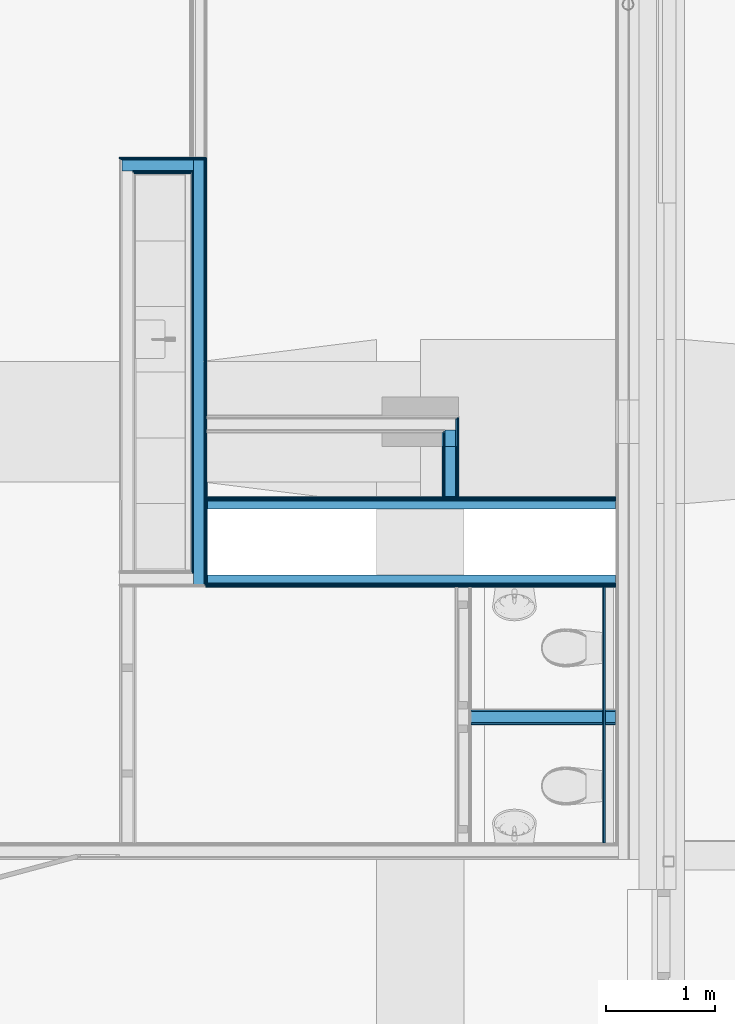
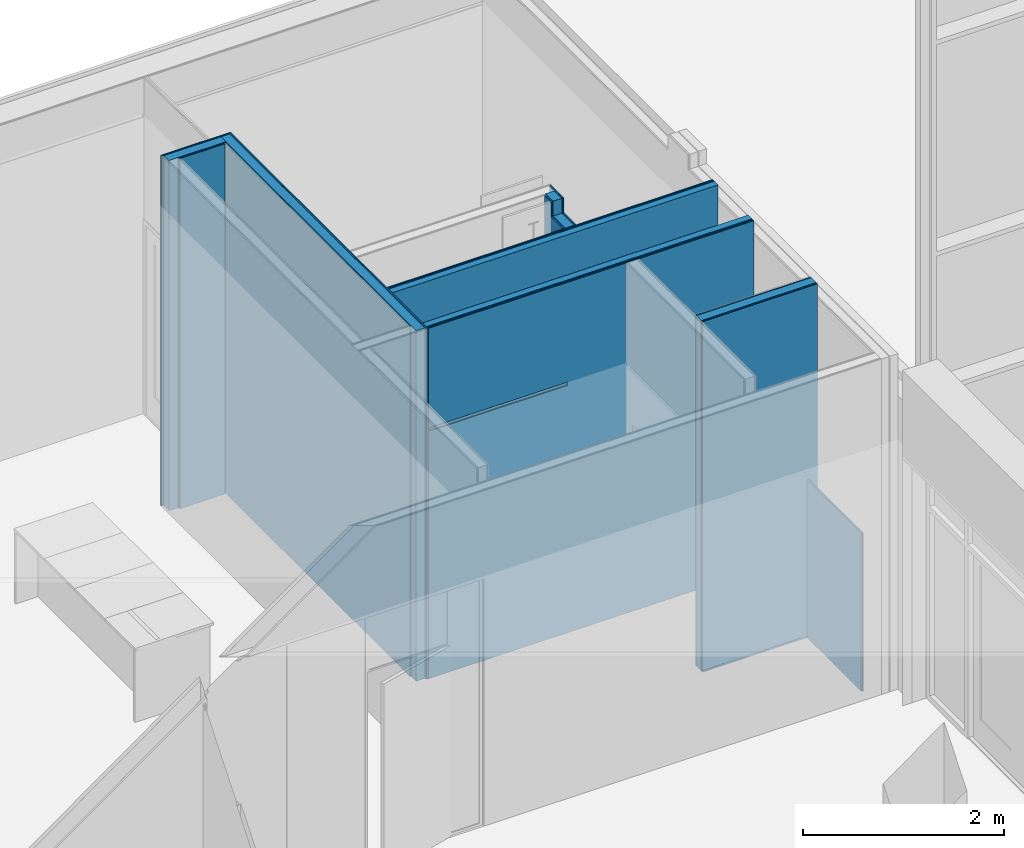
# One storey, part 47 of 94: 28 building element parts, 7 elements without a shape of their own.
"""IFC2X3 building model written with IfcOpenShell, lengths in millimetres."""

from ifc_helpers import new_model, entity, si_unit, converted_unit, derived_unit, money_unit, direction, frame, origin_with_axes, place, context, subcontext, project, spatial, faceted_brep, material, type_object, element, aggregate, save


model = new_model("IFC2X3")

# Units and contexts
model_context = context("Model", 3, precision=0.01, world=origin_with_axes(), true_north=direction((0.0, 1.0)))
body_context = subcontext(model_context, "Body", "Model", "MODEL_VIEW")
ifc_project = project(units=[si_unit("LENGTHUNIT", "METRE", prefix="MILLI"), si_unit("AREAUNIT", "SQUARE_METRE"), si_unit("VOLUMEUNIT", "CUBIC_METRE"), converted_unit("PLANEANGLEUNIT", "DEGREE", entity("IfcPlaneAngleMeasure", 0.0174532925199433), si_unit("PLANEANGLEUNIT", "RADIAN"), dimensions=[0, 0, 0, 0, 0, 0, 0]), money_unit("EUR"), converted_unit("TIMEUNIT", "Year", entity("IfcTimeMeasure", 31557600.0), si_unit("TIMEUNIT", "SECOND"), dimensions=[0, 0, 1, 0, 0, 0, 0]), si_unit("MASSUNIT", "GRAM", prefix="KILO"), si_unit("THERMODYNAMICTEMPERATUREUNIT", "DEGREE_CELSIUS"), si_unit("LUMINOUSINTENSITYUNIT", "LUMEN"), si_unit("ENERGYUNIT", "JOULE", prefix="MEGA"), derived_unit("THERMALCONDUCTANCEUNIT", [(si_unit("POWERUNIT", "WATT"), 1), (si_unit("LENGTHUNIT", "METRE"), -1), (si_unit("THERMODYNAMICTEMPERATUREUNIT", "KELVIN"), -1)]), derived_unit("SPECIFICHEATCAPACITYUNIT", [(si_unit("ENERGYUNIT", "JOULE"), 1), (si_unit("MASSUNIT", "GRAM", prefix="KILO"), -1), (si_unit("THERMODYNAMICTEMPERATUREUNIT", "KELVIN"), -1)]), derived_unit("MASSDENSITYUNIT", [(si_unit("MASSUNIT", "GRAM", prefix="KILO"), 1), (si_unit("VOLUMEUNIT", "CUBIC_METRE"), -1)])], contexts=[model_context])

# Site, building, storey
site_placement = place(None, origin_with_axes())
site = spatial("IfcSite", under=ifc_project, at=site_placement, Name="<site naam>", CompositionType="ELEMENT")
building_placement = place(site_placement, origin_with_axes())
building = spatial("IfcBuilding", under=site, at=building_placement, Name="<Naam gebouw>", CompositionType="ELEMENT")
storey_placement = place(building_placement, frame((0.0, 0.0, 4250.0), z_axis=(0.0, 0.0, 1.0), x_axis=(1.0, 0.0, 0.0)))
storey = spatial("IfcBuildingStorey", under=building, at=storey_placement, Name="01 1e verdieping", CompositionType="ELEMENT", Elevation=4250.0)

# Wall, building element parts
wall_type_1 = type_object("IfcWallType", Name="MS-04 GF 138 V/100.3.A 113", PredefinedType="NOTDEFINED")
wall_1_placement = place(storey_placement, frame((0.0, 15199.99999483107, 0.0), z_axis=(0.0, 0.0, 1.0), x_axis=(1.0, 0.0, 0.0)))
wall_1 = element("IfcWall", 1, at=wall_1_placement, inside=storey, type_object=wall_type_1, Name="22_Binnenwand_MS-04")
ifc_material_1 = material(Name="gipsplaat")
building_element_part_1_placement = place(wall_1_placement, origin_with_axes())
building_element_part_1 = element("IfcBuildingElementPart", 2, at=building_element_part_1_placement, material=ifc_material_1, Name="gipsplaat", context=body_context, shape_type="Brep", body=[
    faceted_brep([(3785.044468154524, 112.5000000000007, 4250.0), (49.88295929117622, 112.5000000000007, 4250.0), (49.88473264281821, 99.99999999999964, 4250.0), (3785.044468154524, 99.99999999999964, 4250.0), (3785.044468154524, 112.5000000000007, 0.0), (49.88295929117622, 112.5000000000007, 0.0), (49.88473264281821, 99.99999999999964, 0.0), (3785.044468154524, 99.99999999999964, 0.0)], [[[0, 1, 2, 3]], [[4, 5, 1, 0]], [[2, 1, 5, 6]], [[3, 2, 6, 7]], [[3, 7, 4, 0]], [[7, 6, 5, 4]]]),
])
building_element_part_2_placement = place(wall_1_placement, origin_with_axes())
building_element_part_2 = element("IfcBuildingElementPart", 3, at=building_element_part_2_placement, material=ifc_material_1, Name="gipsplaat", context=body_context, shape_type="Brep", body=[
    faceted_brep([(3785.044468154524, 99.99999999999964, 4250.0), (49.88473264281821, 99.99999999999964, 4250.0), (49.88650599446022, 87.50000000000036, 4250.0), (3785.044468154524, 87.50000000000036, 4250.0), (3785.044468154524, 99.99999999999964, 0.0), (49.88473264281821, 99.99999999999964, 0.0), (49.88650599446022, 87.50000000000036, 0.0), (3785.044468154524, 87.50000000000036, 0.0)], [[[0, 1, 2, 3]], [[4, 5, 1, 0]], [[2, 1, 5, 6]], [[3, 2, 6, 7]], [[3, 7, 4, 0]], [[7, 6, 5, 4]]]),
])
building_element_part_3_placement = place(wall_1_placement, origin_with_axes())
building_element_part_3 = element("IfcBuildingElementPart", 4, at=building_element_part_3_placement, material=ifc_material_1, Name="gipsplaat", context=body_context, shape_type="Brep", body=[
    faceted_brep([(3785.044468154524, 87.50000000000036, 4250.0), (49.88650599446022, 87.50000000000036, 4250.0), (49.88827934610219, 75.00000000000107, 4250.0), (3785.044468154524, 75.00000000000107, 4250.0), (3785.044468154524, 87.50000000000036, 0.0), (49.88650599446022, 87.50000000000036, 0.0), (49.88827934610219, 74.99999999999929, 0.0), (3785.044468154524, 75.00000000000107, 0.0)], [[[0, 1, 2, 3]], [[4, 5, 1, 0]], [[2, 1, 5, 6]], [[3, 2, 6, 7]], [[3, 7, 4, 0]], [[7, 6, 5, 4]]]),
])
ifc_material_2 = material(Name="isolatie_steenwol LSW")
building_element_part_4_placement = place(wall_1_placement, origin_with_axes())
building_element_part_4 = element("IfcBuildingElementPart", 5, at=building_element_part_4_placement, material=ifc_material_2, Name="isolatie_steenwol LSW", context=body_context, shape_type="Brep", body=[
    faceted_brep([(3785.044468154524, 75.00000000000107, 4250.0), (49.88827934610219, 75.00000000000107, 4250.0), (49.89891945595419, 0.0, 4250.0), (3785.044468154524, 0.0, 4250.0), (3785.044468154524, 75.00000000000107, 0.0), (49.88827934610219, 74.99999999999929, 0.0), (49.89891945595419, 0.0, 0.0), (3785.044468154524, 0.0, 0.0)], [[[0, 1, 2, 3]], [[4, 5, 1, 0]], [[2, 1, 5, 6]], [[3, 2, 6, 7]], [[3, 7, 4, 0]], [[7, 6, 5, 4]]]),
])
aggregate(wall_1, [building_element_part_1, building_element_part_2, building_element_part_3, building_element_part_4])

wall_2_placement = place(storey_placement, frame((-76.73513183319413, 14599.99996934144, 0.0), z_axis=(0.0, 0.0, 1.0), x_axis=(1.0, 0.0, 0.0)))
wall_2 = element("IfcWall", 6, at=wall_2_placement, inside=storey, type_object=wall_type_1, Name="22_Binnenwand_MS-04")
building_element_part_5_placement = place(wall_2_placement, origin_with_axes())
building_element_part_5 = element("IfcBuildingElementPart", 7, at=building_element_part_5_placement, material=ifc_material_2, Name="isolatie_steenwol LSW", context=body_context, shape_type="Brep", body=[
    faceted_brep([(3861.779599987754, -74.99999999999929, 0.0), (126.7298122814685, -74.99999999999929, 0.0), (126.7191721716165, 0.0, 0.0), (3861.779599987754, 0.0, 0.0), (3861.779599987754, -74.99999999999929, 4250.0), (126.7298122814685, -74.99999999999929, 4250.0), (126.7191721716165, 0.0, 4250.0), (3861.779599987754, 0.0, 4250.0)], [[[0, 1, 2, 3]], [[4, 5, 1, 0]], [[2, 1, 5, 6]], [[3, 2, 6, 7]], [[3, 7, 4, 0]], [[7, 6, 5, 4]]]),
])
building_element_part_6_placement = place(wall_2_placement, origin_with_axes())
building_element_part_6 = element("IfcBuildingElementPart", 8, at=building_element_part_6_placement, material=ifc_material_1, Name="gipsplaat", context=body_context, shape_type="Brep", body=[
    faceted_brep([(3861.779599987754, -87.50000000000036, 0.0), (126.7315856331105, -87.50000000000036, 0.0), (126.7298122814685, -74.99999999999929, 0.0), (3861.779599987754, -74.99999999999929, 0.0), (3861.779599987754, -87.50000000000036, 4250.0), (126.7315856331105, -87.50000000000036, 4250.0), (126.7298122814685, -74.99999999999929, 4250.0), (3861.779599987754, -74.99999999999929, 4250.0)], [[[0, 1, 2, 3]], [[4, 5, 1, 0]], [[2, 1, 5, 6]], [[3, 2, 6, 7]], [[3, 7, 4, 0]], [[7, 6, 5, 4]]]),
])
building_element_part_7_placement = place(wall_2_placement, origin_with_axes())
building_element_part_7 = element("IfcBuildingElementPart", 9, at=building_element_part_7_placement, material=ifc_material_1, Name="gipsplaat", context=body_context, shape_type="Brep", body=[
    faceted_brep([(126.7333589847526, -100.0000254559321, 3000.0), (1724.979590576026, -100.0000254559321, 3000.0), (1724.979590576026, -100.0000254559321, 3040.0), (126.7333589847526, -100.0000254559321, 3040.0), (126.7333589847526, -99.99999999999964, 4250.0), (3861.779599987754, -99.99999999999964, 4250.0), (3861.779599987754, -99.99999999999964, 0.0), (126.7333589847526, -99.99999999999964, 0.0), (126.7351323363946, -112.4999999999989, 3000.0), (1724.979590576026, -112.4999999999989, 3000.0), (1724.979590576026, -112.4999999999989, 3040.0), (126.7351323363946, -112.4999999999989, 3040.0), (126.7351323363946, -112.4999999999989, 4250.0), (3861.779599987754, -112.4999999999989, 4250.0), (3861.779599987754, -112.4999999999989, 0.0), (126.7351323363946, -112.5000000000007, 0.0)], [[[0, 1, 2, 3, 4, 5, 6, 7]], [[1, 0, 8, 9]], [[2, 1, 9, 10]], [[3, 2, 10, 11]], [[3, 11, 12, 4]], [[13, 5, 4, 12]], [[14, 6, 5, 13]], [[6, 14, 15, 7]], [[8, 0, 7, 15]], [[9, 8, 15, 14, 13, 12, 11, 10]]]),
])
building_element_part_8_placement = place(wall_2_placement, origin_with_axes())
building_element_part_8 = element("IfcBuildingElementPart", 10, at=building_element_part_8_placement, material=ifc_material_1, Name="gipsplaat", context=body_context, shape_type="Brep", body=[
    faceted_brep([(3861.779599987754, -99.99999999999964, 0.0), (126.7333589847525, -99.99999999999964, 0.0), (126.7315856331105, -87.50000000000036, 0.0), (3861.779599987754, -87.50000000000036, 0.0), (3861.779599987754, -99.99999999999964, 4250.0), (126.7333589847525, -99.99999999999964, 4250.0), (126.7315856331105, -87.50000000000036, 4250.0), (3861.779599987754, -87.50000000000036, 4250.0)], [[[0, 1, 2, 3]], [[4, 5, 1, 0]], [[2, 1, 5, 6]], [[3, 2, 6, 7]], [[3, 7, 4, 0]], [[7, 6, 5, 4]]]),
])
aggregate(wall_2, [building_element_part_5, building_element_part_6, building_element_part_7, building_element_part_8])

wall_type_2 = type_object("IfcWallType", Name="MS-01 GF 150 ECO DGS/2.100.2.A 150", PredefinedType="NOTDEFINED")
wall_3_placement = place(storey_placement, frame((2350.000000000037, 16050.0, 0.0), z_axis=(0.0, 0.0, 1.0), x_axis=(0.0, -1.0, 0.0)))
wall_3 = element("IfcWall", 11, at=wall_3_placement, inside=storey, type_object=wall_type_2, Name="22_Binnenwand_MS-01")
building_element_part_9_placement = place(wall_3_placement, origin_with_axes())
building_element_part_9 = element("IfcBuildingElementPart", 12, at=building_element_part_9_placement, material=ifc_material_1, Name="gipsplaat", context=body_context, shape_type="Brep", body=[
    faceted_brep([(274.9999999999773, -12.49999999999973, 4250.0), (274.9999999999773, 0.0, 4250.0), (12.49999999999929, 0.0, 4250.0), (12.49999999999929, -12.49999999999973, 4250.0), (274.9999999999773, 0.0, 4070.000000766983), (274.9999999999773, -12.49999999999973, 4070.000000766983), (737.5000051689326, 0.0, 4070.000000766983), (737.5000051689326, 0.0, 0.0), (12.49999999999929, 0.0, 0.0), (12.49999999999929, -12.49999999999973, 0.0), (737.5000051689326, -12.49999999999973, 0.0), (737.5000051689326, -12.49999999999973, 4070.000000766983)], [[[0, 1, 2, 3]], [[4, 1, 0, 5]], [[4, 6, 7, 8, 2, 1]], [[9, 3, 2, 8]], [[5, 0, 3, 9, 10, 11]], [[6, 4, 5, 11]], [[6, 11, 10, 7]], [[7, 10, 9, 8]]]),
])
building_element_part_10_placement = place(wall_3_placement, origin_with_axes())
building_element_part_10 = element("IfcBuildingElementPart", 13, at=building_element_part_10_placement, material=ifc_material_2, Name="isolatie_steenwol LSW", context=body_context, shape_type="Brep", body=[
    faceted_brep([(274.9999999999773, -124.9999999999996, 4250.0), (274.9999999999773, -24.99999999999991, 4250.0), (125.0, -24.99999999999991, 4250.0), (125.0, -124.9999999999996, 4250.0), (274.9999999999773, -24.99999999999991, 4070.000000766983), (274.9999999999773, -125.0000000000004, 4070.000000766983), (737.5000051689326, -24.99999999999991, 4070.000000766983), (737.5000051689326, -24.99999999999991, 0.0), (125.0, -24.99999999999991, 0.0), (125.0, -125.0000000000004, 0.0), (737.5000051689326, -125.0000000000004, 0.0), (737.5000051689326, -125.0000000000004, 4070.000000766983)], [[[0, 1, 2, 3]], [[4, 1, 0, 5]], [[4, 6, 7, 8, 2, 1]], [[9, 3, 2, 8]], [[5, 0, 3, 9, 10, 11]], [[6, 4, 5, 11]], [[6, 11, 10, 7]], [[7, 10, 9, 8]]]),
])
building_element_part_11_placement = place(wall_3_placement, origin_with_axes())
building_element_part_11 = element("IfcBuildingElementPart", 14, at=building_element_part_11_placement, material=ifc_material_1, Name="gipsplaat", context=body_context, shape_type="Brep", body=[
    faceted_brep([(274.9999999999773, -137.4999999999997, 4250.0), (274.9999999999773, -124.9999999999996, 4250.0), (137.4999999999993, -124.9999999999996, 4250.0), (137.4999999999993, -137.4999999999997, 4250.0), (274.9999999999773, -125.0000000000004, 4070.000000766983), (274.9999999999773, -137.4999999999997, 4070.000000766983), (737.5000051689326, -125.0000000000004, 4070.000000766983), (737.5000051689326, -125.0000000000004, 0.0), (137.4999999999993, -125.0000000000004, 0.0), (137.4999999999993, -137.4999999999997, 0.0), (737.5000051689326, -137.4999999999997, 0.0), (737.5000051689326, -137.4999999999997, 4070.000000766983)], [[[0, 1, 2, 3]], [[4, 1, 0, 5]], [[4, 6, 7, 8, 2, 1]], [[9, 3, 2, 8]], [[5, 0, 3, 9, 10, 11]], [[6, 4, 5, 11]], [[6, 11, 10, 7]], [[7, 10, 9, 8]]]),
])
building_element_part_12_placement = place(wall_3_placement, origin_with_axes())
building_element_part_12 = element("IfcBuildingElementPart", 15, at=building_element_part_12_placement, material=ifc_material_1, Name="gipsplaat", context=body_context, shape_type="Brep", body=[
    faceted_brep([(274.9999999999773, -149.9999999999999, 4250.0), (274.9999999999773, -137.4999999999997, 4250.0), (150.0000000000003, -137.4999999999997, 4250.0), (150.0000000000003, -149.9999999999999, 4250.0), (274.9999999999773, -137.4999999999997, 4070.000000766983), (274.9999999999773, -149.9999999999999, 4070.000000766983), (737.5000051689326, -137.4999999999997, 4070.000000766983), (737.5000051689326, -137.4999999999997, 0.0), (150.0000000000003, -137.4999999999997, 0.0), (150.0000000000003, -149.9999999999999, 0.0), (737.5000051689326, -150.0000000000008, 0.0), (737.5000051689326, -149.9999999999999, 4070.000000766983)], [[[0, 1, 2, 3]], [[4, 1, 0, 5]], [[4, 6, 7, 8, 2, 1]], [[9, 3, 2, 8]], [[5, 0, 3, 9, 10, 11]], [[6, 4, 5, 11]], [[6, 11, 10, 7]], [[7, 10, 9, 8]]]),
])
building_element_part_13_placement = place(wall_3_placement, origin_with_axes())
building_element_part_13 = element("IfcBuildingElementPart", 16, at=building_element_part_13_placement, material=ifc_material_1, Name="gipsplaat", context=body_context, shape_type="Brep", body=[
    faceted_brep([(274.9999999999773, -24.99999999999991, 4250.0), (274.9999999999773, -12.49999999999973, 4250.0), (24.99999999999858, -12.49999999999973, 4250.0), (24.99999999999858, -24.99999999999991, 4250.0), (274.9999999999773, -12.49999999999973, 4070.000000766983), (274.9999999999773, -24.99999999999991, 4070.000000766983), (737.5000051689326, -12.49999999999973, 4070.000000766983), (737.5000051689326, -12.49999999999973, 0.0), (24.99999999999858, -12.49999999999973, 0.0), (24.99999999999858, -24.99999999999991, 0.0), (737.5000051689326, -24.99999999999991, 0.0), (737.5000051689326, -24.99999999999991, 4070.000000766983)], [[[0, 1, 2, 3]], [[4, 1, 0, 5]], [[4, 6, 7, 8, 2, 1]], [[9, 3, 2, 8]], [[5, 0, 3, 9, 10, 11]], [[6, 4, 5, 11]], [[6, 11, 10, 7]], [[7, 10, 9, 8]]]),
])
aggregate(wall_3, [building_element_part_9, building_element_part_10, building_element_part_11, building_element_part_12, building_element_part_13])

wall_4_placement = place(storey_placement, frame((49.46373943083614, 18267.49669746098, 0.0), z_axis=(0.0, 0.0, 1.0), x_axis=(0.0001418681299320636, -0.9999999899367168, 0.0)))
wall_4 = element("IfcWall", 17, at=wall_4_placement, inside=storey, type_object=wall_type_2, Name="22_Binnenwand_MS-01")
building_element_part_14_placement = place(wall_4_placement, origin_with_axes())
building_element_part_14 = element("IfcBuildingElementPart", 18, at=building_element_part_14_placement, material=ifc_material_1, Name="gipsplaat", context=body_context, shape_type="Brep", body=[
    faceted_brep([(-150.0016637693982, -12.49999999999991, 0.0), (3779.99499280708, -12.50000000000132, 0.0), (3779.99499280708, -12.50000000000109, 4250.0), (-150.0016637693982, -12.49999999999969, 4250.0), (-150.0002211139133, -1.65259318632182, 0.0), (-149.9980537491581, 0.0, 0.0), (447.7879961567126, -5.736015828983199e-09, 0.0), (2217.496620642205, -0.2510652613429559, 0.0), (2217.496656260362, 0.0, 0.0), (3779.996766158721, 0.0, 0.0), (3779.996766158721, 0.0, 4250.0), (-150.0000013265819, 0.0, 4250.0), (-149.9980537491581, 0.0, 3.000000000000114), (-150.0002211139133, -1.652593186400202, 3.000000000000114), (2217.496656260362, 0.0, 3.000000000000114), (447.787955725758, 0.0, 3.000000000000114), (2217.496620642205, -0.2510652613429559, 3.000000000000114)], [[[0, 1, 2, 3]], [[1, 0, 4, 5, 6, 7, 8, 9]], [[2, 1, 9, 10]], [[3, 2, 10, 11]], [[12, 13, 4, 0, 3, 11]], [[5, 4, 13, 12]], [[6, 5, 12, 11, 10, 9, 8, 14, 15]], [[16, 7, 6, 15]], [[7, 16, 14, 8]], [[16, 15, 14]]]),
])
building_element_part_15_placement = place(wall_4_placement, origin_with_axes())
building_element_part_15 = element("IfcBuildingElementPart", 19, at=building_element_part_15_placement, material=ifc_material_1, Name="gipsplaat", context=body_context, shape_type="Brep", body=[
    faceted_brep([(3767.494992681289, -12.50000000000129, 0.0), (3767.493219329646, -25.00000000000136, 0.0), (-137.5033261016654, -24.99999999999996, 0.0), (-137.5016636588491, -12.49999999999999, 0.0), (3767.494992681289, -12.50000000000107, 4250.0), (3767.493219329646, -25.00000000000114, 4250.0), (-137.5033261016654, -24.99999999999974, 4250.0), (-137.5016636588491, -12.49999999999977, 4250.0)], [[[0, 1, 2, 3]], [[1, 0, 4, 5]], [[1, 5, 6, 2]], [[7, 3, 2, 6]], [[4, 0, 3, 7]], [[5, 4, 7, 6]]]),
])
building_element_part_16_placement = place(wall_4_placement, origin_with_axes())
building_element_part_16 = element("IfcBuildingElementPart", 20, at=building_element_part_16_placement, material=ifc_material_2, Name="isolatie_steenwol LSW", context=body_context, shape_type="Brep", body=[
    faceted_brep([(3754.993219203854, -25.00000000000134, 0.0), (3754.979032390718, -125.0000000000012, 0.0), (-125.0166255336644, -125.0000000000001, 0.0), (-125.0033259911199, -25.00000000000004, 0.0), (3754.993219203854, -25.00000000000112, 4250.0), (3754.979032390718, -125.000000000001, 4250.0), (-125.0166255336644, -124.9999999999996, 4250.0), (-125.0033259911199, -24.99999999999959, 4250.0)], [[[0, 1, 2, 3]], [[1, 0, 4, 5]], [[1, 5, 6, 2]], [[7, 3, 2, 6]], [[4, 0, 3, 7]], [[5, 4, 7, 6]]]),
])
building_element_part_17_placement = place(wall_4_placement, origin_with_axes())
building_element_part_17 = element("IfcBuildingElementPart", 21, at=building_element_part_17_placement, material=ifc_material_1, Name="gipsplaat", context=body_context, shape_type="Brep", body=[
    faceted_brep([(3654.979031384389, -125.0000000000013, 0.0), (3654.977258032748, -137.5000000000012, 0.0), (-25.01828709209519, -137.5, 0.0), (-25.0166246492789, -125.0, 0.0), (3654.979031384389, -125.000000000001, 4250.0), (3654.977258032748, -137.500000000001, 4250.0), (-25.01828709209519, -137.4999999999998, 4250.0), (-25.0166246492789, -124.9999999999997, 4250.0)], [[[0, 1, 2, 3]], [[1, 0, 4, 5]], [[1, 5, 6, 2]], [[7, 3, 2, 6]], [[4, 0, 3, 7]], [[5, 4, 7, 6]]]),
])
aggregate(wall_4, [building_element_part_14, building_element_part_15, building_element_part_16, building_element_part_17])

wall_5_placement = place(storey_placement, frame((-751.8920079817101, 18267.48958726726, 0.0), z_axis=(0.0, 0.0, 1.0), x_axis=(0.9999999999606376, 8.872705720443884e-06, 0.0)))
wall_5 = element("IfcWall", 22, at=wall_5_placement, inside=storey, type_object=wall_type_2, Name="22_Binnenwand_MS-01")
building_element_part_18_placement = place(wall_5_placement, origin_with_axes())
building_element_part_18 = element("IfcBuildingElementPart", 23, at=building_element_part_18_placement, material=ifc_material_1, Name="gipsplaat", context=body_context, shape_type="Brep", body=[
    faceted_brep([(641.335766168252, 137.4943096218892, 3.000000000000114), (641.3358770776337, 149.9943727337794, 3.000000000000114), (651.4649503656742, 149.994282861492, 3.000000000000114), (651.4558500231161, 137.4942198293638, 3.000000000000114), (-0.04501414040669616, 150.0000004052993, 3.000000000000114), (-0.04126296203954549, 137.5000003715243, 3.000000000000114), (-0.04501414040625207, 150.0000004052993, 3600.0), (0.2786941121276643, 149.9999971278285, 3600.0), (0.2786941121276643, 149.9999971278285, 3640.0), (-0.04501414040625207, 150.0000004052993, 3640.0), (-0.04501414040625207, 150.0000004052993, 4250.0), (788.8357989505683, 149.9930008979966, 4250.0), (788.8357989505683, 149.9930008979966, 0.0), (651.4649503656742, 149.994282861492, 0.0), (651.4558500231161, 137.4942198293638, 0.0), (788.8374613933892, 137.4930008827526, 0.0), (788.8374613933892, 137.4930008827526, 4250.0), (-0.0412629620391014, 137.5000003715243, 4250.0), (-0.0412629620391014, 137.5000003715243, 3640.0), (0.2785832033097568, 137.4999975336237, 3640.0), (0.2785832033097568, 137.4999975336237, 3600.0), (-0.0412629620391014, 137.5000003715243, 3600.0)], [[[0, 1, 2, 3]], [[4, 1, 0, 5]], [[1, 4, 6, 7, 8, 9, 10, 11, 12, 13, 2]], [[2, 13, 14, 3]], [[5, 0, 3, 14, 15, 16, 17, 18, 19, 20, 21]], [[4, 5, 21, 6]], [[7, 6, 21, 20]], [[8, 7, 20, 19]], [[9, 8, 19, 18]], [[9, 18, 17, 10]], [[11, 10, 17, 16]], [[12, 11, 16, 15]], [[14, 13, 12, 15]]]),
])
building_element_part_19_placement = place(wall_5_placement, origin_with_axes())
building_element_part_19 = element("IfcBuildingElementPart", 24, at=building_element_part_19_placement, material=ifc_material_1, Name="gipsplaat", context=body_context, shape_type="Brep", body=[
    faceted_brep([(651.4467497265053, 124.9942199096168, 3.000000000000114), (12.46248881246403, 124.9998894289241, 3.000000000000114), (12.4587376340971, 137.4998894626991, 3.000000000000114), (651.4558500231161, 137.4942198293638, 3.000000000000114), (651.4467497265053, 124.9942199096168, 0.0), (776.3391237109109, 124.9931117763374, 0.0), (776.3391237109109, 124.9931117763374, 4250.0), (12.46248881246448, 124.9998894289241, 4250.0), (12.45873763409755, 137.4998894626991, 4250.0), (776.3374612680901, 137.4931117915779, 4250.0), (776.3374612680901, 137.4931117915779, 0.0), (651.4558500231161, 137.4942198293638, 0.0)], [[[0, 1, 2, 3]], [[1, 0, 4, 5, 6, 7]], [[2, 1, 7, 8]], [[2, 8, 9, 10, 11, 3]], [[3, 11, 4, 0]], [[4, 11, 10, 5]], [[5, 10, 9, 6]], [[9, 8, 7, 6]]]),
])
building_element_part_20_placement = place(wall_5_placement, origin_with_axes())
building_element_part_20 = element("IfcBuildingElementPart", 25, at=building_element_part_20_placement, material=ifc_material_1, Name="gipsplaat", context=body_context, shape_type="Brep", body=[
    faceted_brep([(651.3648470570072, 12.49422063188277, 3.000000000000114), (124.9962547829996, 12.49889094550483, 3.000000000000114), (124.9925036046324, 24.99889097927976, 3.000000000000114), (651.373947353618, 24.99422055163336, 3.000000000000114), (651.3648470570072, 12.49422063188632, 0.0), (663.8540845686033, 12.49410981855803, 0.0), (663.8540845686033, 12.49410981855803, 4250.0), (124.9962547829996, 12.49889094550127, 4250.0), (124.9925036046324, 24.99889097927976, 4250.0), (663.8524221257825, 24.99410983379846, 4250.0), (663.8524221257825, 24.99410983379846, 0.0), (651.373947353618, 24.99422055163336, 0.0)], [[[0, 1, 2, 3]], [[1, 0, 4, 5, 6, 7]], [[2, 1, 7, 8]], [[2, 8, 9, 10, 11, 3]], [[3, 11, 4, 0]], [[4, 11, 10, 5]], [[5, 10, 9, 6]], [[9, 8, 7, 6]]]),
])
building_element_part_21_placement = place(wall_5_placement, origin_with_axes())
building_element_part_21 = element("IfcBuildingElementPart", 26, at=building_element_part_21_placement, material=ifc_material_2, Name="isolatie_steenwol LSW", context=body_context, shape_type="Brep", body=[
    faceted_brep([(651.373947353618, 24.99422055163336, 3.000000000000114), (24.99249883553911, 24.99977824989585, 3.000000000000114), (24.9624894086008, 124.9997785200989, 3.000000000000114), (651.4467497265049, 124.9942199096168, 3.000000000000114), (651.373947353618, 24.99422055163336, 0.0), (676.3524222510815, 24.99399892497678, 0.0), (676.3524222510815, 24.99399892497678, 4250.0), (24.99249883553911, 24.99977824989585, 4250.0), (24.96248940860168, 124.9997785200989, 4250.0), (676.3391227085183, 124.993999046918, 4250.0), (676.3391227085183, 124.993999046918, 0.0), (651.4467497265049, 124.9942199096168, 0.0)], [[[0, 1, 2, 3]], [[1, 0, 4, 5, 6, 7]], [[2, 1, 7, 8]], [[2, 8, 9, 10, 11, 3]], [[3, 11, 4, 0]], [[4, 11, 10, 5]], [[10, 9, 6, 5]], [[9, 8, 7, 6]]]),
])
building_element_part_22_placement = place(wall_5_placement, origin_with_axes())
building_element_part_22 = element("IfcBuildingElementPart", 27, at=building_element_part_22_placement, material=ifc_material_1, Name="gipsplaat", context=body_context, shape_type="Brep", body=[
    faceted_brep([(651.3557467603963, -0.00577928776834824, 3.000000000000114), (137.5000065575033, -0.00121999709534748, 3.000000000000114), (137.4962553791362, 12.49878003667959, 3.000000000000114), (651.3540844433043, 12.49422072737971, 3.000000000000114), (651.3557468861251, -0.005779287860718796, 4250.0), (137.5000065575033, -0.00121999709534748, 4250.0), (137.4962553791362, 12.49878003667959, 4250.0), (651.3540844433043, 12.49422072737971, 4250.0)], [[[0, 1, 2, 3]], [[1, 0, 4, 5]], [[2, 1, 5, 6]], [[2, 6, 7, 3]], [[0, 3, 7, 4]], [[7, 6, 5, 4]]]),
])
aggregate(wall_5, [building_element_part_18, building_element_part_19, building_element_part_20, building_element_part_21, building_element_part_22])

wall_6_placement = place(storey_placement, frame((2465.044484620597, 13374.99996934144, 0.0), z_axis=(0.0, 0.0, 1.0), x_axis=(1.0, 0.0, 0.0)))
wall_6 = element("IfcWall", 28, at=wall_6_placement, inside=storey, type_object=wall_type_2, Name="22_Binnenwand_MS-01")
building_element_part_23_placement = place(wall_6_placement, origin_with_axes())
building_element_part_23 = element("IfcBuildingElementPart", 29, at=building_element_part_23_placement, material=ifc_material_2, Name="isolatie_steenwol LSW", context=body_context, shape_type="Brep", body=[
    faceted_brep([(0.0, -25.00000000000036, 19.99999999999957), (1200.423215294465, -25.00000000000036, 19.99999999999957), (1200.423215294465, -25.00000000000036, 0.0), (0.0, -25.00000000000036, 0.0), (1200.423215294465, -125.0, 19.99999999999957), (0.0, -125.0, 19.99999999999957), (1200.423215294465, -125.0, 0.0), (0.0, -125.0, 0.0)], [[[0, 1, 2, 3]], [[4, 1, 0, 5]], [[1, 4, 6, 2]], [[3, 2, 6, 7]], [[5, 0, 3, 7]], [[4, 5, 7, 6]]]),
    faceted_brep([(1200.423215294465, -125.0, 22.99999999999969), (1200.423215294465, -25.00000000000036, 22.99999999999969), (1200.423215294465, -25.00000000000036, 1914.999999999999), (1200.423215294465, -125.0, 1914.999999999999), (0.0, -25.00000000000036, 22.99999999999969), (0.0, -125.0, 22.99999999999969), (0.0, -25.00000000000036, 4250.0), (1320.000000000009, -25.00000000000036, 4250.0), (1320.000000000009, -25.00000000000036, 0.0), (1225.423215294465, -25.00000000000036, 0.0), (1225.423215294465, -25.00000000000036, 1914.999999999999), (1225.423215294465, -125.0, 1914.999999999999), (1225.423215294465, -125.0, 0.0), (1320.000000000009, -125.0, 0.0), (1320.000000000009, -125.0, 4250.0), (0.0, -125.0, 4250.0)], [[[0, 1, 2, 3]], [[4, 1, 0, 5]], [[1, 4, 6, 7, 8, 9, 10, 2]], [[2, 10, 11, 3]], [[5, 0, 3, 11, 12, 13, 14, 15]], [[4, 5, 15, 6]], [[6, 15, 14, 7]], [[8, 7, 14, 13]], [[13, 12, 9, 8]], [[11, 10, 9, 12]]]),
])
building_element_part_24_placement = place(wall_6_placement, origin_with_axes())
building_element_part_24 = element("IfcBuildingElementPart", 30, at=building_element_part_24_placement, material=ifc_material_1, Name="gipsplaat", context=body_context, shape_type="Brep", body=[
    faceted_brep([(0.0, -12.49999999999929, 19.99999999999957), (1200.423215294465, -12.49999999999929, 19.99999999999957), (1200.423215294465, -12.49999999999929, 0.0), (0.0, -12.49999999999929, 0.0), (1200.423215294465, -25.00000000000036, 19.99999999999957), (0.0, -25.00000000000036, 19.99999999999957), (1200.423215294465, -25.00000000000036, 0.0), (0.0, -25.00000000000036, 0.0)], [[[0, 1, 2, 3]], [[4, 1, 0, 5]], [[1, 4, 6, 2]], [[3, 2, 6, 7]], [[5, 0, 3, 7]], [[4, 5, 7, 6]]]),
    faceted_brep([(1200.423215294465, -25.00000000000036, 22.99999999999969), (1200.423215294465, -12.49999999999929, 22.99999999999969), (1200.423215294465, -12.49999999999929, 1914.999999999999), (1200.423215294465, -25.00000000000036, 1914.999999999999), (0.0, -12.49999999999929, 22.99999999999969), (0.0, -25.00000000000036, 22.99999999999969), (0.0, -12.49999999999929, 4250.0), (1320.000000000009, -12.49999999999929, 4250.0), (1320.000000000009, -12.49999999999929, 0.0), (1225.423215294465, -12.49999999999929, 0.0), (1225.423215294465, -12.49999999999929, 1914.999999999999), (1225.423215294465, -25.00000000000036, 1914.999999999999), (1225.423215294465, -25.00000000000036, 0.0), (1320.000000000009, -25.00000000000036, 0.0), (1320.000000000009, -25.00000000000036, 4250.0), (0.0, -25.00000000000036, 4250.0)], [[[0, 1, 2, 3]], [[4, 1, 0, 5]], [[1, 4, 6, 7, 8, 9, 10, 2]], [[2, 10, 11, 3]], [[5, 0, 3, 11, 12, 13, 14, 15]], [[4, 5, 15, 6]], [[6, 15, 14, 7]], [[8, 7, 14, 13]], [[13, 12, 9, 8]], [[11, 10, 9, 12]]]),
])
building_element_part_25_placement = place(wall_6_placement, origin_with_axes())
building_element_part_25 = element("IfcBuildingElementPart", 31, at=building_element_part_25_placement, material=ifc_material_1, Name="gipsplaat", context=body_context, shape_type="Brep", body=[
    faceted_brep([(0.0, -137.4999999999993, 19.99999999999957), (1200.423215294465, -137.4999999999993, 19.99999999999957), (1200.423215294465, -137.4999999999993, 0.0), (0.0, -137.4999999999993, 0.0), (1200.423215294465, -150.0000000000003, 19.99999999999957), (0.0, -150.0000000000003, 19.99999999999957), (1200.423215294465, -150.0000000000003, 0.0), (0.0, -150.0000000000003, 0.0)], [[[0, 1, 2, 3]], [[4, 1, 0, 5]], [[1, 4, 6, 2]], [[3, 2, 6, 7]], [[5, 0, 3, 7]], [[4, 5, 7, 6]]]),
    faceted_brep([(1200.423215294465, -150.0000000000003, 22.99999999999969), (1200.423215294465, -137.4999999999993, 22.99999999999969), (1200.423215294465, -137.4999999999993, 1914.999999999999), (1200.423215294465, -150.0000000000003, 1914.999999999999), (0.0, -137.4999999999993, 22.99999999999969), (0.0, -150.0000000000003, 22.99999999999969), (0.0, -137.4999999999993, 4250.0), (1320.000000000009, -137.4999999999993, 4250.0), (1320.000000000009, -137.4999999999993, 0.0), (1225.423215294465, -137.4999999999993, 0.0), (1225.423215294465, -137.4999999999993, 1914.999999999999), (1225.423215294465, -150.0000000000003, 1914.999999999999), (1225.423215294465, -150.0000000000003, 0.0), (1320.000000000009, -150.0000000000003, 0.0), (1320.000000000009, -150.0000000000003, 4250.0), (0.0, -150.0000000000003, 4250.0)], [[[0, 1, 2, 3]], [[4, 1, 0, 5]], [[1, 4, 6, 7, 8, 9, 10, 2]], [[2, 10, 11, 3]], [[5, 0, 3, 11, 12, 13, 14, 15]], [[4, 5, 15, 6]], [[6, 15, 14, 7]], [[8, 7, 14, 13]], [[13, 12, 9, 8]], [[11, 10, 9, 12]]]),
])
building_element_part_26_placement = place(wall_6_placement, origin_with_axes())
building_element_part_26 = element("IfcBuildingElementPart", 32, at=building_element_part_26_placement, material=ifc_material_1, Name="gipsplaat", context=body_context, shape_type="Brep", body=[
    faceted_brep([(0.0, -125.0, 19.99999999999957), (1200.423215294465, -125.0, 19.99999999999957), (1200.423215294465, -125.0, 0.0), (0.0, -125.0, 0.0), (1200.423215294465, -137.4999999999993, 19.99999999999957), (0.0, -137.4999999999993, 19.99999999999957), (1200.423215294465, -137.4999999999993, 0.0), (0.0, -137.4999999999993, 0.0)], [[[0, 1, 2, 3]], [[4, 1, 0, 5]], [[1, 4, 6, 2]], [[3, 2, 6, 7]], [[5, 0, 3, 7]], [[4, 5, 7, 6]]]),
    faceted_brep([(1200.423215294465, -137.4999999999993, 22.99999999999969), (1200.423215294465, -125.0, 22.99999999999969), (1200.423215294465, -125.0, 1914.999999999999), (1200.423215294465, -137.4999999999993, 1914.999999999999), (0.0, -125.0, 22.99999999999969), (0.0, -137.4999999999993, 22.99999999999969), (0.0, -125.0, 4250.0), (1320.000000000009, -125.0, 4250.0), (1320.000000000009, -125.0, 0.0), (1225.423215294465, -125.0, 0.0), (1225.423215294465, -125.0, 1914.999999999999), (1225.423215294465, -137.4999999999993, 1914.999999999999), (1225.423215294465, -137.4999999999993, 0.0), (1320.000000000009, -137.4999999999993, 0.0), (1320.000000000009, -137.4999999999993, 4250.0), (0.0, -137.4999999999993, 4250.0)], [[[0, 1, 2, 3]], [[4, 1, 0, 5]], [[1, 4, 6, 7, 8, 9, 10, 2]], [[2, 10, 11, 3]], [[5, 0, 3, 11, 12, 13, 14, 15]], [[4, 5, 15, 6]], [[6, 15, 14, 7]], [[8, 7, 14, 13]], [[13, 12, 9, 8]], [[11, 10, 9, 12]]]),
])
aggregate(wall_6, [building_element_part_23, building_element_part_24, building_element_part_25, building_element_part_26])

wall_type_3 = type_object("IfcWallType", Name="MS-03 GF 100 HTT DGS V/100.2 100", PredefinedType="NOTDEFINED")
wall_7_placement = place(storey_placement, frame((3665.467699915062, 12000.00000000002, 0.0), z_axis=(0.0, 0.0, 1.0), x_axis=(0.0, 1.0, 0.0)))
wall_7 = element("IfcWall", 33, at=wall_7_placement, inside=storey, type_object=wall_type_3, Name="22_Binnenwand_MS-03")
building_element_part_27_placement = place(wall_7_placement, origin_with_axes())
building_element_part_27 = element("IfcBuildingElementPart", 34, at=building_element_part_27_placement, material=ifc_material_1, Name="gipsplaat", context=body_context, shape_type="Brep", body=[
    faceted_brep([(2487.499969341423, -12.50000000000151, 1914.999999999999), (150.0000000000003, -12.50000000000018, 1914.999999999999), (150.0000000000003, -25.00000000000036, 1914.999999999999), (2487.499969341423, -25.00000000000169, 1914.999999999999), (2487.499969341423, -12.50000000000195, 0.0), (150.0000000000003, -12.50000000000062, 0.0), (150.0000000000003, -25.00000000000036, 0.0), (2487.499969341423, -25.00000000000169, 0.0)], [[[0, 1, 2, 3]], [[4, 5, 1, 0]], [[2, 1, 5, 6]], [[3, 2, 6, 7]], [[3, 7, 4, 0]], [[7, 6, 5, 4]]]),
])
building_element_part_28_placement = place(wall_7_placement, origin_with_axes())
building_element_part_28 = element("IfcBuildingElementPart", 35, at=building_element_part_28_placement, material=ifc_material_1, Name="gipsplaat", context=body_context, shape_type="Brep", body=[
    faceted_brep([(2487.499969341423, 0.0, 1914.999999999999), (150.0000000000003, 0.0, 1914.999999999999), (150.0000000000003, -12.50000000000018, 1914.999999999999), (2487.499969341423, -12.50000000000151, 1914.999999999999), (2487.499969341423, 0.0, 0.0), (150.0000000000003, 0.0, 0.0), (150.0000000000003, -12.50000000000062, 0.0), (2487.499969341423, -12.50000000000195, 0.0)], [[[0, 1, 2, 3]], [[4, 5, 1, 0]], [[2, 1, 5, 6]], [[3, 2, 6, 7]], [[3, 7, 4, 0]], [[7, 6, 5, 4]]]),
])
aggregate(wall_7, [building_element_part_27, building_element_part_28])

save(model, "model.ifc")
